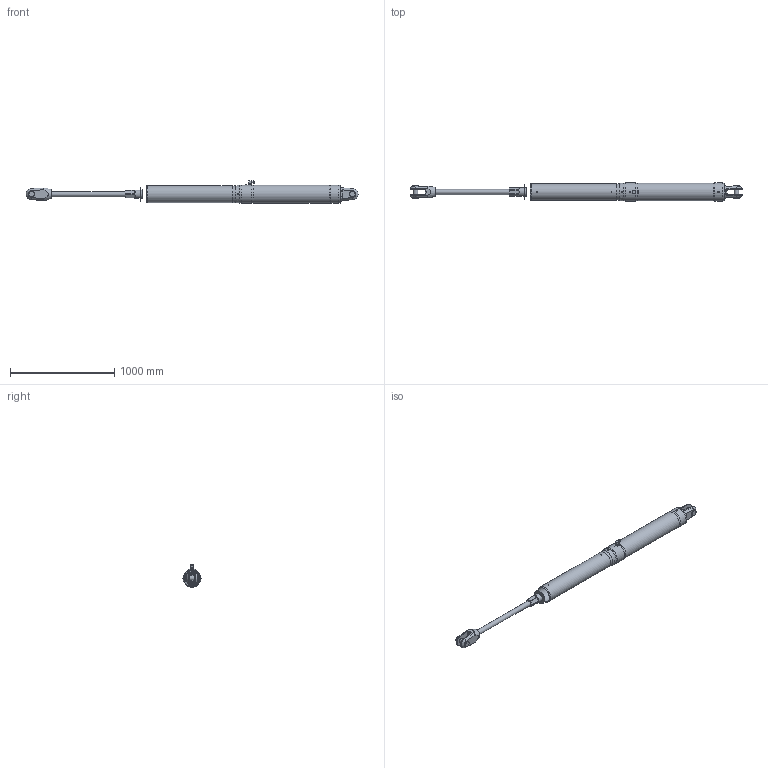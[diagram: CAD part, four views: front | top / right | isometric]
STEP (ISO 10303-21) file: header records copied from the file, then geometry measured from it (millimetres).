
FILE_DESCRIPTION(/* description */ (''),/* implementation_level */ '2;1');
FILE_NAME(/* name */ 'Q:\AA BRAND HYDRAULICS\HYDRAULICS FAMILY DIRECTORY\HYDRAULICS\CYLINDERS\MECHANICAL LOCK RAMS\ALUMINIUM - STAINLESS SINGLE ACTING (-0012 To -0150)\MSA-0150-S0700-NP-71\MSA-0150-S0700-NP-71 (Open).stp',/* time_stamp */ '2018-04-25T17:37:01+01:00',/* author */ ('Lorena'),/* organization */ (''),/* preprocessor_version */ 'ST-DEVELOPER v17',/* originating_system */ 'Autodesk Inventor 2018',/* authorisation */ '');
FILE_SCHEMA (('AUTOMOTIVE_DESIGN { 1 0 10303 214 3 1 1 }'));
Length unit declared in the file: millimetre
Products named in the file (1): MSA-0150-S0700-NP-71 (Open)
Bounding box: 3187.42 x 174.4 x 216.3 mm (x, y, z)
Volume: 46766240.5 mm3; surface area: 1418576.5 mm2
Topology: 2 solids, 4 shells, 495 faces, 1298 edges, 848 vertices
Faces by surface type: plane 281, cone 123, cylinder 77, torus 6, sphere 4, bspline 4
Full cylindrical faces by diameter (mm): 4 x1, 4.2 x4, 5 x2, 7 x1, 9 x1, 9.9 x1, 10 x6, 11.1 x1, 18.9 x1, 19 x3, 19.11 x1, 19.9 x1, 20 x1, 20.9 x2, 22 x2, 24 x2, 27.8 x3, 30 x1, 44.45 x2, 49 x1, 55.562 x2, 80 x2, 81 x2, 84 x1, 160 x1, 171.4 x1, 174.4 x4
Entity records: 17014 total; most frequent: CARTESIAN_POINT 4422, ORIENTED_EDGE 2580, DIRECTION 2514, EDGE_CURVE 1290, AXIS2_PLACEMENT_3D 966, VERTEX_POINT 849, LINE 582, VECTOR 582
